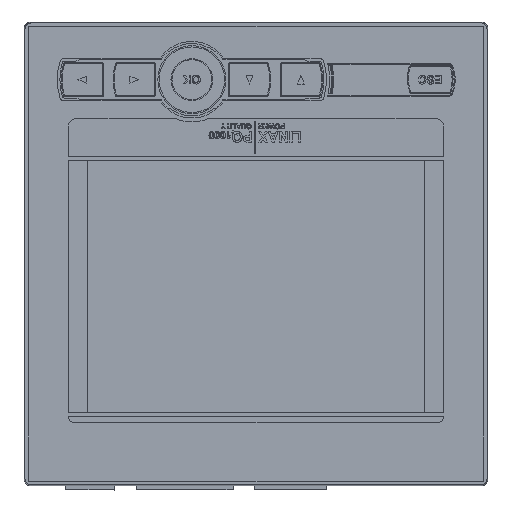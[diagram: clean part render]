
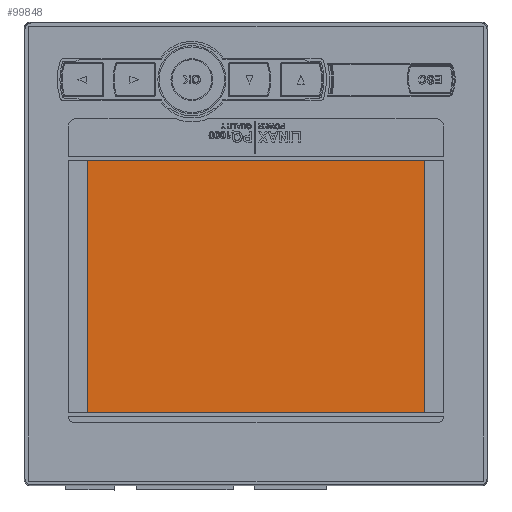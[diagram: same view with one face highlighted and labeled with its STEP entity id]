
A CAD part, top view. The second image highlights one B-rep face of the part: STEP entity #99848.
In plain terms, the highlighted planar face has unit normal (0, 0, 1).
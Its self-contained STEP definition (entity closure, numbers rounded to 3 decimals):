
#14789 = ORIENTED_EDGE ( 'NONE', *, *, #299553, .T. ) ;
#23519 = EDGE_LOOP ( 'NONE', ( #304576, #252329, #14789, #298741 ) ) ;
#30652 = CARTESIAN_POINT ( 'NONE',  ( 18.022, 22.406, 108.946 ) ) ;
#41647 = CARTESIAN_POINT ( 'NONE',  ( -16.747, 2.983, 108.946 ) ) ;
#43539 = DIRECTION ( 'NONE',  ( 0., 0., 1. ) ) ;
#45159 = EDGE_CURVE ( 'NONE', #316675, #236438, #57373, .T. ) ;
#57373 = LINE ( 'NONE', #142942, #152681 ) ;
#98583 = EDGE_CURVE ( 'NONE', #263192, #277811, #121563, .T. ) ;
#99848 = ADVANCED_FACE ( 'NONE', ( #212781 ), #191769, .T. ) ;
#118823 = CARTESIAN_POINT ( 'NONE',  ( 18.022, -29.901, 108.946 ) ) ;
#121563 = LINE ( 'NONE', #326455, #235870 ) ;
#124406 = DIRECTION ( 'NONE',  ( 0., 1., 0. ) ) ;
#133019 = CARTESIAN_POINT ( 'NONE',  ( -51.516, -29.901, 108.946 ) ) ;
#142942 = CARTESIAN_POINT ( 'NONE',  ( 18.022, 22.406, 108.946 ) ) ;
#152681 = VECTOR ( 'NONE', #319467, 1000. ) ;
#179764 = CARTESIAN_POINT ( 'NONE',  ( -51.516, -29.901, 108.946 ) ) ;
#186770 = CARTESIAN_POINT ( 'NONE',  ( 18.022, -29.901, 108.946 ) ) ;
#191769 = PLANE ( 'NONE',  #308637 ) ;
#200494 = CARTESIAN_POINT ( 'NONE',  ( -51.516, 22.406, 108.946 ) ) ;
#212781 = FACE_OUTER_BOUND ( 'NONE', #23519, .T. ) ;
#221704 = EDGE_CURVE ( 'NONE', #277811, #316675, #268745, .T. ) ;
#235870 = VECTOR ( 'NONE', #237433, 1000. ) ;
#236438 = VERTEX_POINT ( 'NONE', #200494 ) ;
#237433 = DIRECTION ( 'NONE',  ( 1., 0., 0. ) ) ;
#252329 = ORIENTED_EDGE ( 'NONE', *, *, #45159, .T. ) ;
#253330 = VECTOR ( 'NONE', #124406, 1000. ) ;
#263192 = VERTEX_POINT ( 'NONE', #179764 ) ;
#268745 = LINE ( 'NONE', #118823, #253330 ) ;
#270010 = VECTOR ( 'NONE', #275511, 1000. ) ;
#275511 = DIRECTION ( 'NONE',  ( 0., -1., 0. ) ) ;
#277811 = VERTEX_POINT ( 'NONE', #186770 ) ;
#298741 = ORIENTED_EDGE ( 'NONE', *, *, #98583, .T. ) ;
#299553 = EDGE_CURVE ( 'NONE', #236438, #263192, #368261, .T. ) ;
#304576 = ORIENTED_EDGE ( 'NONE', *, *, #221704, .T. ) ;
#308637 = AXIS2_PLACEMENT_3D ( 'NONE', #41647, #43539, #335951 ) ;
#316675 = VERTEX_POINT ( 'NONE', #30652 ) ;
#319467 = DIRECTION ( 'NONE',  ( -1., 0., 0. ) ) ;
#326455 = CARTESIAN_POINT ( 'NONE',  ( 18.022, -29.901, 108.946 ) ) ;
#335951 = DIRECTION ( 'NONE',  ( -1., 0., 0. ) ) ;
#368261 = LINE ( 'NONE', #133019, #270010 ) ;
